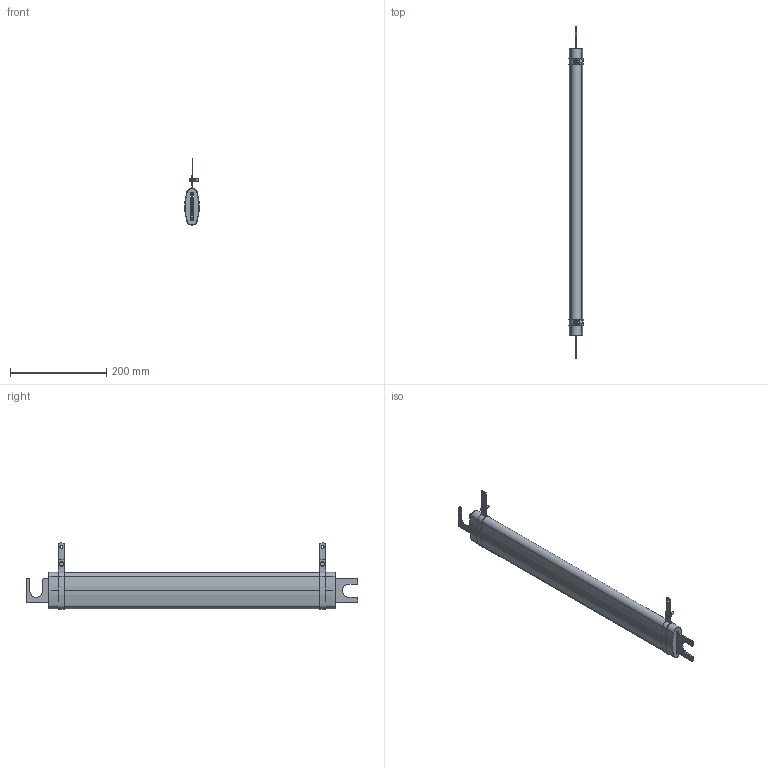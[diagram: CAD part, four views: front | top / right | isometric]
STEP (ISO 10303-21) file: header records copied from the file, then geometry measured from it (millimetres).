
FILE_DESCRIPTION(/* description */ (''),/* implementation_level */ '2;1');
FILE_NAME(/* name */ 'C:\_Vault\Dati\CATALOGO\RCE\RCE 300-1800\CE01K8.stp',/* time_stamp */ '2014-01-22T15:57:43+01:00',/* author */ ('stefano'),/* organization */ (''),/* preprocessor_version */ 'ST-DEVELOPER v15.2',/* originating_system */ 'Autodesk Inventor 2014',/* authorisation */ '');
FILE_SCHEMA (('AUTOMOTIVE_DESIGN { 1 0 10303 214 3 1 1 }'));
Length unit declared in the file: millimetre
Products named in the file (1): CE01K8
Bounding box: 29.17 x 690 x 137.95 mm (x, y, z)
Volume: 875819.9 mm3; surface area: 372621.2 mm2
Topology: 5 solids, 7 shells, 262 faces, 648 edges, 424 vertices
Faces by surface type: plane 140, cylinder 102, cone 20
Full cylindrical faces by diameter (mm): 3 x2, 5 x4, 5.3 x4, 6.5 x6, 6.88 x2, 10 x4
Entity records: 7951 total; most frequent: CARTESIAN_POINT 1393, DIRECTION 1344, ORIENTED_EDGE 1256, EDGE_CURVE 616, AXIS2_PLACEMENT_3D 513, VERTEX_POINT 418, EDGE_LOOP 336, LINE 318
